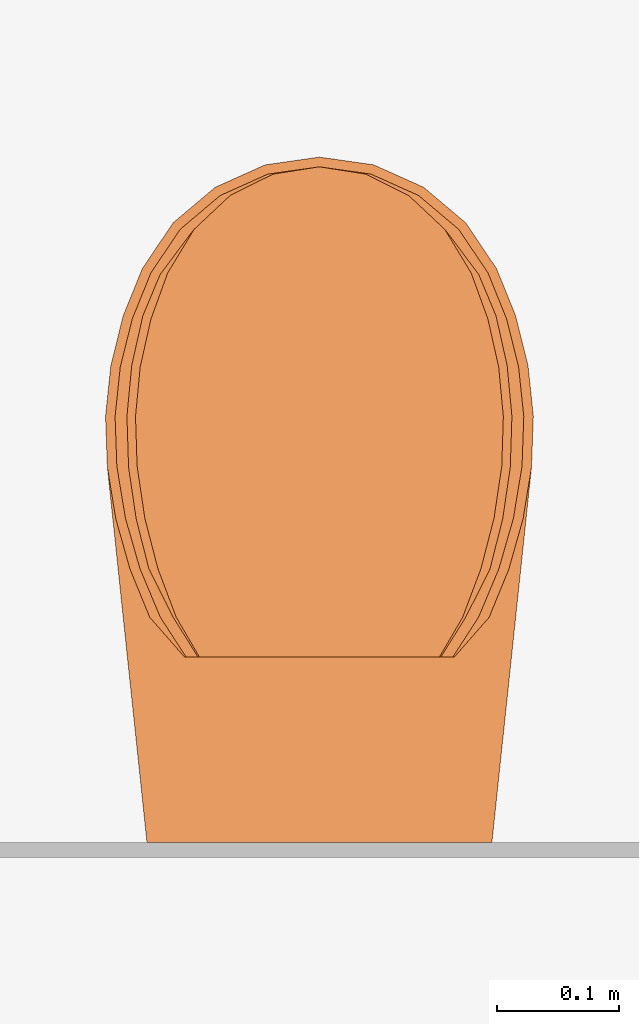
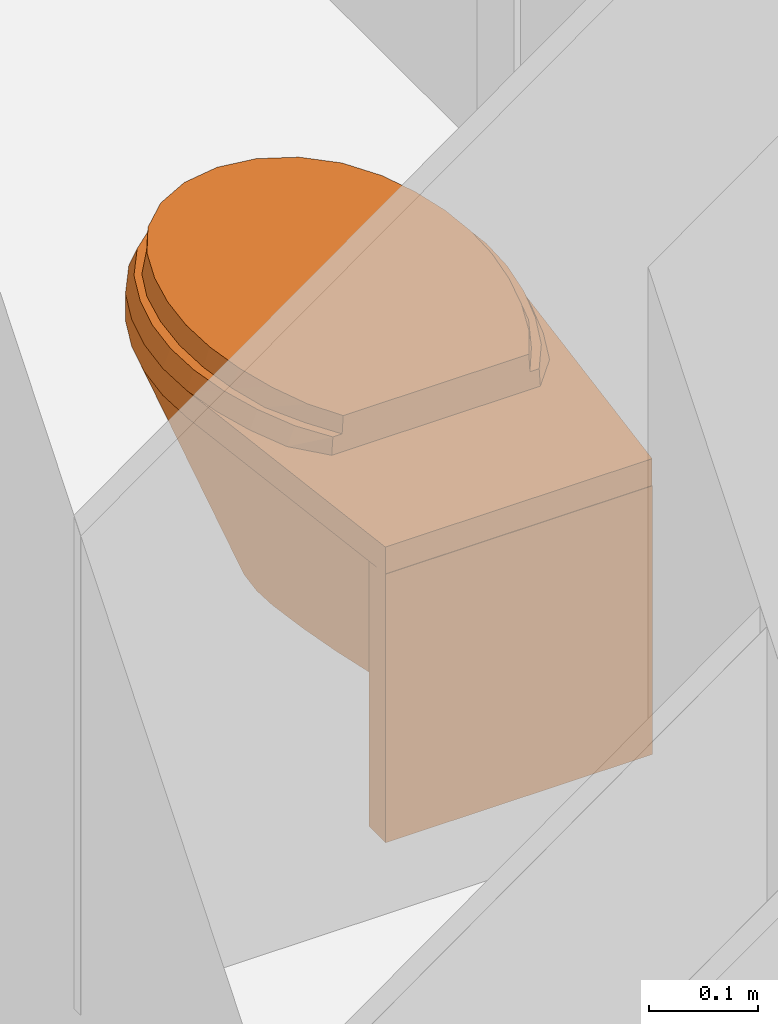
# One storey, part 127 of 135: 1 proxy.
"""IFC2X3 building model written with IfcOpenShell, lengths in millimetres."""

import ifcopenshell
import ifcopenshell.guid

model = None  # the IFC model being written
_history = None  # IfcOwnerHistory: only IFC2X3 demands one
_inside = {}  # id of a spatial element -> (the spatial element, [elements in it])
_under = {}  # id of a project, library or spatial element -> (it, [spatial elements below it])
_declared = {}  # id of a project -> (the project, [libraries it declares])
_typed = {}  # id of a type object -> (the type object, [elements of that type])
_made_of = {}  # id of a material, layer set ... -> (it, [elements and type objects made of it])


def new_model(schema):
    """Start an empty IFC model of exactly this schema.

    Asked for "IFC4X3", IfcOpenShell would pick the latest addendum, in which some entities
    have other attributes; the version numbers below select the first issue.
    IFC2X3 requires an IfcOwnerHistory on every rooted entity: one is made here for all.
    """
    global model, _history
    if schema == "IFC4X3":
        model = ifcopenshell.file(schema_version=(4, 3, 0, 0))
    else:
        model = ifcopenshell.file(schema=schema)
    _inside.clear()
    _under.clear()
    _declared.clear()
    _typed.clear()
    _made_of.clear()
    _history = None
    if model.schema == "IFC2X3":
        org = make("IfcOrganization", Name="unknown")
        user = make(
            "IfcPersonAndOrganization",
            ThePerson=make("IfcPerson", FamilyName="unknown"),
            TheOrganization=org,
        )
        app = make(
            "IfcApplication",
            ApplicationDeveloper=org,
            Version="unknown",
            ApplicationFullName="unknown",
            ApplicationIdentifier="unknown",
        )
        _history = make(
            "IfcOwnerHistory",
            OwningUser=user,
            OwningApplication=app,
            ChangeAction="ADDED",
            CreationDate=0,
        )
    return model


def make(cls, **values):
    """One entity of the class cls with the attributes given. An attribute that is None is left unset."""
    return model.create_entity(
        cls, **{name: value for name, value in values.items() if value is not None}
    )


def entity(cls, *values):
    """Any entity or typed value of the class cls, its attributes in the order of the schema. None: left unset."""
    e = model.create_entity(cls)
    for i, value in enumerate(values):
        if value is not None:
            e[i] = value
    return e


def rooted(cls, **values):
    """An entity with a GlobalId (a new one), such as an element, a storey or a relation."""
    return make(cls, GlobalId=ifcopenshell.guid.new(), OwnerHistory=_history, **values)


def si_unit(unit_type, name, prefix=None):
    """IfcSIUnit, for example si_unit("LENGTHUNIT", "METRE", prefix="MILLI")."""
    return make("IfcSIUnit", UnitType=unit_type, Prefix=prefix, Name=name)


def converted_unit(unit_type, name, factor, base, dimensions=None, offset=None):
    """IfcConversionBasedUnit, such as the inch: factor (a typed value) times the base unit."""
    return make(
        "IfcConversionBasedUnit"
        if offset is None
        else "IfcConversionBasedUnitWithOffset",
        ConversionOffset=offset,
        Dimensions=None
        if dimensions is None
        else entity("IfcDimensionalExponents", *dimensions),
        UnitType=unit_type,
        Name=name,
        ConversionFactor=make(
            "IfcMeasureWithUnit", ValueComponent=factor, UnitComponent=base
        ),
    )


def derived_unit(unit_type, elements):
    """IfcDerivedUnit: a product of units, each with its exponent."""
    return make(
        "IfcDerivedUnit",
        Elements=[
            make("IfcDerivedUnitElement", Unit=unit, Exponent=power)
            for unit, power in elements
        ],
        UnitType=unit_type,
    )


def money_unit(currency):
    """IfcMonetaryUnit."""
    return make("IfcMonetaryUnit", Currency=currency)


def assignment(units):
    """IfcUnitAssignment: the units of a project."""
    return None if units is None else make("IfcUnitAssignment", Units=units)


def point(xyz):
    """IfcCartesianPoint."""
    return None if xyz is None else make("IfcCartesianPoint", Coordinates=xyz)


def direction(xyz):
    """IfcDirection."""
    return None if xyz is None else make("IfcDirection", DirectionRatios=xyz)


def frame(location, z_axis=None, x_axis=None):
    """IfcAxis2Placement3D, a coordinate frame: its origin and axes. An axis left out is left unset."""
    return make(
        "IfcAxis2Placement3D",
        Location=point(location),
        Axis=direction(z_axis),
        RefDirection=direction(x_axis),
    )


def origin_with_axes():
    """The frame at (0, 0, 0) with the z axis (0, 0, 1) and the x axis (1, 0, 0) written out."""
    return frame((0.0, 0.0, 0.0), z_axis=(0.0, 0.0, 1.0), x_axis=(1.0, 0.0, 0.0))


def place(relative_to, where):
    """IfcLocalPlacement: puts the frame where relative to a parent placement (None: the world)."""
    return make(
        "IfcLocalPlacement", PlacementRelTo=relative_to, RelativePlacement=where
    )


def context(
    kind, dimensions, precision=None, world=None, true_north=None, identifier=None
):
    """IfcGeometricRepresentationContext, for example the 3D "Model" context."""
    return make(
        "IfcGeometricRepresentationContext",
        ContextIdentifier=identifier,
        ContextType=kind,
        CoordinateSpaceDimension=dimensions,
        Precision=precision,
        WorldCoordinateSystem=world,
        TrueNorth=true_north,
    )


def subcontext(parent, identifier, kind, view, scale=None):
    """IfcGeometricRepresentationSubContext, for example "Body" below "Model"."""
    return make(
        "IfcGeometricRepresentationSubContext",
        ContextIdentifier=identifier,
        ContextType=kind,
        ParentContext=parent,
        TargetScale=scale,
        TargetView=view,
    )


def project(units=None, contexts=None):
    """IfcProject with its units and contexts."""
    return rooted(
        "IfcProject",
        Name="project",
        RepresentationContexts=contexts,
        UnitsInContext=assignment(units),
    )


def spatial(cls, under=None, at=None, **own):
    """A site, building, storey or space (cls), placed at a placement, below another one or the project."""
    s = rooted(cls, ObjectPlacement=at, **own)
    if under is not None:
        _under.setdefault(under.id(), (under, []))[1].append(s)
    return s


def faces_of(points, faces, orient=None, outer=None):
    """IfcFace entities. A face is a list of loops; a loop is a list of indices into points, from 0.

    orient and outer hold one flag for each loop. By default every Orientation is true, the
    first loop of a face is its IfcFaceOuterBound and the others are IfcFaceBound.
    """
    made = []
    for i, loops in enumerate(faces):
        bounds = []
        for j, loop in enumerate(loops):
            is_outer = j == 0 if outer is None else outer[i][j]
            bounds.append(
                make(
                    "IfcFaceOuterBound" if is_outer else "IfcFaceBound",
                    Bound=make("IfcPolyLoop", Polygon=[points[k] for k in loop]),
                    Orientation=True if orient is None else orient[i][j],
                )
            )
        made.append(make("IfcFace", Bounds=bounds))
    return made


def open_shell(faces, orient=None, outer=None):
    """The faces of one IfcOpenShell. surface_model builds it on its shared points."""
    return ("IfcOpenShell", faces, orient, outer)


def faceted_brep(points, faces, orient=None, outer=None, voids=None):
    """IfcFacetedBrep: a solid bounded by flat faces; with voids (closed shells), ...WithVoids."""
    shared = [point(p) for p in points]
    hull = make("IfcClosedShell", CfsFaces=faces_of(shared, faces, orient, outer))
    if voids is None:
        return make("IfcFacetedBrep", Outer=hull)
    return make(
        "IfcFacetedBrepWithVoids",
        Outer=hull,
        Voids=[
            make(cls, CfsFaces=faces_of(shared, fs, o, b)) for cls, fs, o, b in voids
        ],
    )


def surface_model(cls, points, shells):
    """IfcFaceBasedSurfaceModel or IfcShellBasedSurfaceModel (cls): surfaces that need not close."""
    shared = [point(p) for p in points]
    made = [make(c, CfsFaces=faces_of(shared, fs, o, b)) for c, fs, o, b in shells]
    if cls == "IfcFaceBasedSurfaceModel":
        return make(cls, FbsmFaces=made)
    return make(cls, SbsmBoundary=made)


def shape(context_of_items, identifier, shape_type, items):
    """IfcShapeRepresentation: the items that make up one representation, for example the "Body"."""
    return make(
        "IfcShapeRepresentation",
        ContextOfItems=context_of_items,
        RepresentationIdentifier=identifier,
        RepresentationType=shape_type,
        Items=items,
    )


def source(mapping_origin, context_of_items, identifier, shape_type, items):
    """IfcRepresentationMap: a shape defined once, which mapped items show again and again."""
    return make(
        "IfcRepresentationMap",
        MappingOrigin=mapping_origin,
        MappedRepresentation=shape(context_of_items, identifier, shape_type, items),
    )


def transform(
    local_origin,
    x_axis=None,
    y_axis=None,
    z_axis=None,
    scale=None,
    scale2=None,
    scale3=None,
    uniform=True,
):
    """IfcCartesianTransformationOperator3D, or its non-uniform kind. x_axis, y_axis, z_axis: its Axis1, 2, 3."""
    if uniform:
        return make(
            "IfcCartesianTransformationOperator3D",
            Axis1=direction(x_axis),
            Axis2=direction(y_axis),
            LocalOrigin=point(local_origin),
            Scale=scale,
            Axis3=direction(z_axis),
        )
    return make(
        "IfcCartesianTransformationOperator3DnonUniform",
        Axis1=direction(x_axis),
        Axis2=direction(y_axis),
        LocalOrigin=point(local_origin),
        Scale=scale,
        Axis3=direction(z_axis),
        Scale2=scale2,
        Scale3=scale3,
    )


def mapped(mapping_source, mapping_target):
    """IfcMappedItem: shows the shape of a source again, moved by a transform."""
    return make(
        "IfcMappedItem", MappingSource=mapping_source, MappingTarget=mapping_target
    )


def made_of(thing, what):
    """Note that an element or type object is made of a material, layer set ...; save() writes the relation."""
    if what is not None:
        _made_of.setdefault(what.id(), (what, []))[1].append(thing)
    return thing


def type_object(cls, material=None, **own):
    """A type object (cls), such as IfcWallType, which elements share."""
    return made_of(rooted(cls, **own), material)


def type_shapes(of_type, sources):
    """Give a type object the sources (RepresentationMaps) that its elements show as mapped items."""
    of_type.RepresentationMaps = sources


def element(
    cls,
    number,
    at=None,
    inside=None,
    cuts=None,
    type_object=None,
    material=None,
    context=None,
    identifier="Body",
    shape_type=None,
    held_by="IfcProductDefinitionShape",
    body=None,
    shapes=None,
    **own,
):
    """One element of the class cls, such as IfcWall. Its Tag is "e" and its number.

    at: its placement. inside: the storey or other place that contains it. cuts: it is an
    opening in that element (IfcRelVoidsElement). A single representation is given by context,
    identifier, shape_type and body (its items); several are given by shapes. held_by: the class
    of the entity that holds the representations. save() writes the other relations.
    """
    e = rooted(cls, Tag="e%d" % number, ObjectPlacement=at, **own)
    if body is not None:
        shapes = [shape(context, identifier, shape_type, body)]
    if shapes is not None:
        e.Representation = make(held_by, Representations=shapes)
    if inside is not None:
        _inside.setdefault(inside.id(), (inside, []))[1].append(e)
    if cuts is not None:
        rooted(
            "IfcRelVoidsElement", RelatingBuildingElement=cuts, RelatedOpeningElement=e
        )
    if type_object is not None:
        _typed.setdefault(type_object.id(), (type_object, []))[1].append(e)
    return made_of(e, material)


def aggregate(whole, parts):
    """IfcRelAggregates: a whole, such as a stair, and the parts it consists of."""
    return rooted("IfcRelAggregates", RelatingObject=whole, RelatedObjects=parts)


def save(model, path):
    """Write the relations noted so far, then the file.

    IfcRelAggregates (storeys below a building ...), IfcRelContainedInSpatialStructure (elements
    in a storey), IfcRelDefinesByType, IfcRelAssociatesMaterial and IfcRelDeclares: one each for
    every whole, place, type object, material and project.
    """
    for whole, parts in _under.values():
        aggregate(whole, parts)
    for where, things in _inside.values():
        rooted(
            "IfcRelContainedInSpatialStructure",
            RelatedElements=things,
            RelatingStructure=where,
        )
    for kind, things in _typed.values():
        rooted("IfcRelDefinesByType", RelatedObjects=things, RelatingType=kind)
    for what, things in _made_of.values():
        rooted("IfcRelAssociatesMaterial", RelatedObjects=things, RelatingMaterial=what)
    for by, libraries in _declared.values():
        rooted("IfcRelDeclares", RelatingContext=by, RelatedDefinitions=libraries)
    model.write(path)


model = new_model("IFC2X3")

# Units and contexts
model_context = context("Model", 3, precision=0.01, world=origin_with_axes(), true_north=direction((0.0, 1.0)))
body_context = subcontext(model_context, "Body", "Model", "MODEL_VIEW")
ifc_project = project(units=[si_unit("LENGTHUNIT", "METRE", prefix="MILLI"), si_unit("AREAUNIT", "SQUARE_METRE"), si_unit("VOLUMEUNIT", "CUBIC_METRE"), converted_unit("PLANEANGLEUNIT", "DEGREE", entity("IfcPlaneAngleMeasure", 0.0174532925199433), si_unit("PLANEANGLEUNIT", "RADIAN"), dimensions=[0, 0, 0, 0, 0, 0, 0]), money_unit("EUR"), converted_unit("TIMEUNIT", "Year", entity("IfcTimeMeasure", 31557600.0), si_unit("TIMEUNIT", "SECOND"), dimensions=[0, 0, 1, 0, 0, 0, 0]), si_unit("MASSUNIT", "GRAM", prefix="KILO"), si_unit("THERMODYNAMICTEMPERATUREUNIT", "DEGREE_CELSIUS"), si_unit("LUMINOUSINTENSITYUNIT", "LUMEN"), si_unit("ENERGYUNIT", "JOULE", prefix="MEGA"), derived_unit("THERMALCONDUCTANCEUNIT", [(si_unit("POWERUNIT", "WATT"), 1), (si_unit("LENGTHUNIT", "METRE"), -1), (si_unit("THERMODYNAMICTEMPERATUREUNIT", "KELVIN"), -1)]), derived_unit("SPECIFICHEATCAPACITYUNIT", [(si_unit("ENERGYUNIT", "JOULE"), 1), (si_unit("MASSUNIT", "GRAM", prefix="KILO"), -1), (si_unit("THERMODYNAMICTEMPERATUREUNIT", "KELVIN"), -1)]), derived_unit("MASSDENSITYUNIT", [(si_unit("MASSUNIT", "GRAM", prefix="KILO"), 1), (si_unit("VOLUMEUNIT", "CUBIC_METRE"), -1)])], contexts=[model_context])

# Site, building, storey
site_placement = place(None, origin_with_axes())
site = spatial("IfcSite", under=ifc_project, at=site_placement, Name="Site", CompositionType="ELEMENT")
building_placement = place(site_placement, origin_with_axes())
building = spatial("IfcBuilding", under=site, at=building_placement, Name="Naam gebouw", CompositionType="ELEMENT")
storey_placement = place(building_placement, origin_with_axes())
storey = spatial("IfcBuildingStorey", under=building, at=storey_placement, Name="Begane grond N", CompositionType="ELEMENT", Elevation=0.0)

# Proxy
building_element_proxy_type = type_object("IfcBuildingElementProxyType", Name="Toilet 27", PredefinedType="NOTDEFINED")
shared_shape = source(origin_with_axes(), body_context, "Body", "SurfaceModel", [
    faceted_brep([(141.0283315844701, -29.31865370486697, 69.99999999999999), (-141.0283315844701, -29.31865370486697, 69.99999999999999), (-141.0283315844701, 0.4949050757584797, 69.99999999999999), (141.0283315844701, 0.4949050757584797, 69.99999999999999), (141.0283315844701, -29.31865370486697, 370.0), (-141.0283315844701, -29.31865370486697, 370.0), (-141.0283315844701, 0.4949050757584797, 370.0), (141.0283315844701, 0.4949050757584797, 370.0)], [[[0, 1, 2, 3]], [[1, 0, 4, 5]], [[2, 1, 5, 6]], [[3, 2, 6, 7]], [[0, 3, 7, 4]], [[5, 4, 7, 6]]]),
    faceted_brep([(0.0, -70.89167385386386, 370.0), (29.22322490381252, -74.34010881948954, 370.0), (48.96817068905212, -81.5929972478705, 370.0), (48.96817068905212, -29.31865370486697, 370.0), (-48.96817068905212, -29.31865370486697, 370.0), (-48.96817068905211, -81.5929972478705, 370.0), (-29.22322490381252, -74.34010881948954, 370.0), (13.70129415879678, -104.9506834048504, 120.0), (48.96817068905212, -91.42153264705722, 305.9289314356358), (25.9903462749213, -111.5027098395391, 120.0), (48.96817068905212, -132.9294031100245, 150.8349994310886), (48.96817068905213, -162.8654130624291, 120.0), (48.96817068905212, -29.31865370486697, 120.0), (48.96817068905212, -98.32654517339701, 277.0091093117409), (48.96817068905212, -115.6023982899, 192.7960154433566), (48.96817068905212, -128.1614437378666, 166.4745945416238), (-48.96817068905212, -29.31865370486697, 120.0), (-48.96817068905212, -88.2509938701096, 324.1614695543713), (-48.96817068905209, -162.865413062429, 120.0), (-48.96817068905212, -136.958898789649, 141.3134093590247), (-48.96817068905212, -132.9294031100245, 150.8349994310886), (-48.96817068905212, -121.830119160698, 170.4964192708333), (-48.96817068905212, -115.6023982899, 192.7960154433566), (-48.96817068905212, -107.0876370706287, 223.4625696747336), (-48.96817068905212, -91.42153264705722, 305.9289314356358), (-13.70129415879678, -104.9506834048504, 120.0), (0.0, -102.6888280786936, 120.0), (35.59888072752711, -121.6691333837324, 120.0), (41.53676110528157, -134.4015105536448, 120.0), (-41.53676110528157, -134.4015105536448, 120.0), (-25.9903462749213, -111.5027098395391, 120.0), (-35.59888072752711, -121.6691333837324, 120.0)], [[[0, 1, 2, 3, 4, 5, 6]], [[1, 0, 7]], [[8, 2, 1, 9]], [[10, 11, 12, 3, 2, 8, 13, 14, 15]], [[3, 12, 16, 4]], [[17, 5, 4, 16, 18, 19, 20, 21, 22, 23, 24]], [[6, 5, 17, 25]], [[0, 6, 26]], [[26, 7, 0]], [[7, 9, 1]], [[13, 8, 9, 27]], [[11, 10, 28]], [[29, 18, 16, 12, 11, 28, 27, 9, 7, 26, 25, 30, 31]], [[14, 13, 27]], [[15, 14, 27, 28]], [[10, 15, 28]], [[18, 29, 19]], [[20, 19, 29]], [[29, 31, 21, 20]], [[22, 21, 31]], [[31, 30, 23, 22]], [[24, 23, 30]], [[30, 25, 17, 24]], [[25, 26, 6]]]),
    surface_model("IfcShellBasedSurfaceModel", [(17.69122070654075, -459.020482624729, 120.0), (34.02798181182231, -451.6883347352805, 120.0), (85.18209164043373, -535.3680377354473, 370.0), (0.0, -461.5278029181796, 120.0), (-17.69122070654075, -459.020482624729, 120.0), (-34.02798181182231, -451.6883347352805, 120.0), (-47.75865687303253, -440.0938417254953, 120.0), (-57.83238894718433, -425.1254476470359, 120.0), (-68.23029031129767, -399.4182096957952, 120.0), (-74.94382651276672, -372.4786779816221, 120.0), (-77.83882476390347, -344.8464779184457, 120.0), (-76.85750262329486, -317.0761416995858, 120.0), (-70.97348723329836, -270.8651255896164, 120.0), (-63.11507520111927, -224.9582077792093, 120.0), (-53.29597761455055, -179.4418475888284, 120.0), (-41.53676110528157, -134.4015105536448, 120.0), (-35.59888072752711, -121.6691333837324, 120.0), (-25.9903462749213, -111.5027098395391, 120.0), (-13.70129415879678, -104.9506834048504, 120.0), (0.0, -102.6888280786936, 120.0), (13.70129415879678, -104.9506834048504, 120.0), (25.9903462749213, -111.5027098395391, 120.0), (35.59888072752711, -121.6691333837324, 120.0), (41.53676110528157, -134.4015105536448, 120.0), (53.29597761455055, -179.4418475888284, 120.0), (63.11507520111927, -224.9582077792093, 120.0), (70.97348723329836, -270.8651255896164, 120.0), (76.85750262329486, -317.0761416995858, 120.0), (77.83882476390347, -344.845484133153, 120.0), (74.94382651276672, -372.4786779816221, 120.0), (68.23029031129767, -399.4182096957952, 120.0), (57.83238894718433, -425.1254476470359, 120.0), (47.75865687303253, -440.0938417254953, 120.0), (119.554809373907, -506.3435444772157, 370.0), (44.28681357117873, -553.722258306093, 370.0), (0.0, -560.0, 370.0), (-44.28681357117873, -553.722258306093, 370.0), (-85.18209164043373, -535.3680377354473, 370.0), (-119.554809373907, -506.3435444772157, 370.0), (-144.7734172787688, -468.8718762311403, 370.0), (-160.3893669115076, -430.2603362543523, 370.0), (-170.4738719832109, -389.7973742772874, 370.0), (-174.8222455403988, -348.2949128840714, 370.0), (-173.3473242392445, -306.5847503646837, 370.0), (-164.8111927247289, -257.295981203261, 370.0), (-149.8396642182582, -209.614162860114, 370.0), (-128.7050017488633, -164.3989196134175, 370.0), (-101.7881776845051, -122.4661491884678, 370.0), (-81.51241692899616, -100.8344247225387, 370.0), (-56.88632388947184, -84.50156343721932, 370.0), (-29.22322490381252, -74.34010881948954, 370.0), (0.0, -70.89167385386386, 370.0), (29.22322490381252, -74.34010881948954, 370.0), (56.88632388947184, -84.50156343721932, 370.0), (81.51241692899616, -100.8344247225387, 370.0), (101.7881776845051, -122.4661491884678, 370.0), (128.7050017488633, -164.3989196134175, 370.0), (149.8396642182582, -209.614162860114, 370.0), (164.8111927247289, -257.2969749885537, 370.0), (173.3473242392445, -306.5847503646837, 370.0), (174.8222455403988, -348.2949128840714, 370.0), (170.4738719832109, -389.7973742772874, 370.0), (160.3903462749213, -430.2603362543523, 370.0), (144.7734172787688, -468.8718762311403, 370.0)], [open_shell([[[0, 1, 2]], [[0, 3, 4, 5, 6, 7, 8, 9, 10, 11, 12, 13, 14, 15, 16, 17, 18, 19, 20, 21, 22, 23, 24, 25, 26, 27, 28, 29, 30, 31, 32, 1]], [[1, 33, 2]], [[0, 2, 34]], [[3, 0, 34]], [[4, 3, 35]], [[5, 4, 36]], [[6, 5, 37]], [[7, 6, 38]], [[8, 7, 39]], [[9, 8, 40]], [[10, 9, 41]], [[11, 10, 42]], [[12, 11, 43]], [[13, 12, 44]], [[14, 13, 45]], [[15, 14, 46]], [[16, 15, 47]], [[17, 16, 48]], [[18, 17, 49]], [[19, 18, 50]], [[20, 19, 51]], [[21, 20, 52]], [[22, 21, 53]], [[23, 22, 54]], [[24, 23, 55]], [[25, 24, 56]], [[26, 25, 57]], [[27, 26, 58]], [[28, 27, 59]], [[29, 28, 60]], [[30, 29, 61]], [[31, 30, 62]], [[32, 31, 63]], [[1, 32, 33]], [[3, 34, 35]], [[4, 35, 36]], [[5, 36, 37]], [[6, 37, 38]], [[7, 38, 39]], [[8, 39, 40]], [[9, 40, 41]], [[10, 41, 42]], [[11, 42, 43]], [[12, 43, 44]], [[13, 44, 45]], [[14, 45, 46]], [[15, 46, 47]], [[16, 47, 48]], [[17, 48, 49]], [[18, 49, 50]], [[19, 50, 51]], [[20, 51, 52]], [[21, 52, 53]], [[22, 53, 54]], [[23, 54, 55]], [[24, 55, 56]], [[25, 56, 57]], [[26, 57, 58]], [[27, 58, 59]], [[28, 59, 60]], [[29, 60, 61]], [[30, 61, 62]], [[31, 62, 63]], [[32, 63, 33]]])]),
    faceted_brep([(-173.3473242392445, -306.5847503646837, 370.0), (-174.8222455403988, -348.2949128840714, 370.0), (-174.8222455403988, -348.2949128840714, 400.0), (-173.3473242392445, -306.5847503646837, 400.0), (-140.9734872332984, 0.0, 370.0), (140.975445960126, 0.0, 370.0), (173.3473242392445, -306.5847503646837, 370.0), (174.8222455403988, -348.2949128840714, 370.0), (170.4738719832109, -389.7973742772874, 370.0), (160.3903462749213, -430.2603362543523, 370.0), (144.7734172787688, -468.8718762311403, 370.0), (119.554809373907, -506.3435444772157, 370.0), (85.18209164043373, -535.3680377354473, 370.0), (44.28681357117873, -553.722258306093, 370.0), (0.0, -560.0, 370.0), (-44.28681357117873, -553.722258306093, 370.0), (-85.18209164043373, -535.3680377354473, 370.0), (-119.554809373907, -506.3435444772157, 370.0), (-144.7734172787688, -468.8718762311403, 370.0), (-160.3893669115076, -430.2603362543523, 370.0), (-170.4738719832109, -389.7973742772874, 370.0), (144.5021336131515, -309.7211367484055, 370.0), (129.3885974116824, -258.2838037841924, 370.0), (97.13522210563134, -215.7418429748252, 370.0), (52.01301154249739, -187.731010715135, 370.0), (0.0, -177.9630950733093, 370.0), (-52.01301154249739, -187.731010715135, 370.0), (-97.13522210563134, -215.7418429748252, 370.0), (-129.3885974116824, -258.2838037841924, 370.0), (-144.5021336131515, -309.7211367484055, 370.0), (-145.8291710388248, -347.2633637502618, 370.0), (-141.914655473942, -384.6197529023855, 370.0), (-132.838894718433, -421.0399963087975, 370.0), (-118.7820916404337, -455.7936617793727, 370.0), (-98.09206016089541, -486.5383973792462, 370.0), (-69.89031129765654, -510.3524743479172, 370.0), (-36.33634137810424, -525.411302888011, 370.0), (0.0, -530.5620920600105, 370.0), (36.33634137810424, -525.411302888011, 370.0), (69.89031129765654, -510.3524743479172, 370.0), (98.09206016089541, -486.5383973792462, 370.0), (118.7820916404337, -455.7936617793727, 370.0), (132.838894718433, -421.0399963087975, 370.0), (141.914655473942, -384.6197529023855, 370.0), (145.8291710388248, -347.2633637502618, 370.0), (-170.4738719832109, -389.7973742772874, 400.0), (-160.3893669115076, -430.2603362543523, 400.0), (-144.7734172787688, -468.8718762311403, 400.0), (-119.554809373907, -506.3435444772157, 400.0), (-85.18209164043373, -535.3680377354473, 400.0), (-44.28681357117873, -553.722258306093, 400.0), (0.0, -560.0, 400.0), (44.28681357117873, -553.722258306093, 400.0), (85.18209164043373, -535.3680377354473, 400.0), (119.554809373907, -506.3435444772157, 400.0), (144.7734172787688, -468.8718762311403, 400.0), (160.3903462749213, -430.2603362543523, 400.0), (170.4738719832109, -389.7973742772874, 400.0), (174.8222455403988, -348.2949128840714, 400.0), (173.3473242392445, -306.5847503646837, 400.0), (140.975445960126, 0.0, 400.0), (-140.9734872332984, 0.0, 400.0), (144.5021336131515, -309.7211367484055, 400.0), (145.8291710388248, -347.2633637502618, 400.0), (141.914655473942, -384.6197529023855, 400.0), (132.838894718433, -421.0399963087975, 400.0), (118.7820916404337, -455.7936617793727, 400.0), (98.09206016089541, -486.5383973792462, 400.0), (69.89031129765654, -510.3524743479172, 400.0), (36.33634137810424, -525.411302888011, 400.0), (0.0, -530.5620920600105, 400.0), (-36.33634137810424, -525.411302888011, 400.0), (-69.89031129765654, -510.3524743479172, 400.0), (-98.09206016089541, -486.5383973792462, 400.0), (-118.7820916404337, -455.7936617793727, 400.0), (-132.838894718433, -421.0399963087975, 400.0), (-141.914655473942, -384.6197529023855, 400.0), (-145.8291710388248, -347.2633637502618, 400.0), (-144.5021336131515, -309.7211367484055, 400.0), (-129.3885974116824, -258.2838037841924, 400.0), (-97.13522210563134, -215.7418429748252, 400.0), (-52.01301154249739, -187.731010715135, 400.0), (0.0, -177.9630950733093, 400.0), (52.01301154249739, -187.731010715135, 400.0), (97.13522210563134, -215.7418429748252, 400.0), (129.3885974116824, -258.2838037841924, 400.0)], [[[0, 1, 2, 3]], [[0, 4, 5, 6, 7, 8, 9, 10, 11, 12, 13, 14, 15, 16, 17, 18, 19, 20, 1], [21, 22, 23, 24, 25, 26, 27, 28, 29, 30, 31, 32, 33, 34, 35, 36, 37, 38, 39, 40, 41, 42, 43, 44]], [[1, 20, 45, 2]], [[3, 2, 45, 46, 47, 48, 49, 50, 51, 52, 53, 54, 55, 56, 57, 58, 59, 60, 61], [62, 63, 64, 65, 66, 67, 68, 69, 70, 71, 72, 73, 74, 75, 76, 77, 78, 79, 80, 81, 82, 83, 84, 85]], [[4, 0, 3, 61]], [[5, 4, 61, 60]], [[6, 5, 60, 59]], [[7, 6, 59, 58]], [[8, 7, 58, 57]], [[9, 8, 57, 56]], [[10, 9, 56, 55]], [[11, 10, 55, 54]], [[12, 11, 54, 53]], [[13, 12, 53, 52]], [[14, 13, 52, 51]], [[15, 14, 51, 50]], [[16, 15, 50, 49]], [[17, 16, 49, 48]], [[18, 17, 48, 47]], [[19, 18, 47, 46]], [[20, 19, 46, 45]], [[22, 21, 62, 85]], [[23, 22, 85, 84]], [[24, 23, 84, 83]], [[25, 24, 83, 82]], [[26, 25, 82, 81]], [[27, 26, 81, 80]], [[28, 27, 80, 79]], [[29, 28, 79, 78]], [[30, 29, 78, 77]], [[31, 30, 77, 76]], [[32, 31, 76, 75]], [[33, 32, 75, 74]], [[34, 33, 74, 73]], [[35, 34, 73, 72]], [[36, 35, 72, 71]], [[37, 36, 71, 70]], [[38, 37, 70, 69]], [[39, 38, 69, 68]], [[40, 39, 68, 67]], [[41, 40, 67, 66]], [[42, 41, 66, 65]], [[43, 42, 65, 64]], [[44, 43, 64, 63]], [[21, 44, 63, 62]]]),
    surface_model("IfcShellBasedSurfaceModel", [(16.80665967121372, -465.7329258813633, 220.0), (32.3265827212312, -460.0138505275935, 220.0), (80.92298705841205, -525.2840188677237, 370.0), (0.0, -467.6886357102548, 220.0), (-16.80665967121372, -465.7329258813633, 220.0), (-32.3265827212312, -460.0138505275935, 220.0), (-45.3707240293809, -450.970145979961, 220.0), (-54.94076949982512, -439.2947985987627, 220.0), (-64.81877579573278, -419.2431529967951, 220.0), (-71.1966351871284, -398.23031825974, 220.0), (-73.9468835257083, -376.6772022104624, 220.0), (-73.01462749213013, -355.0163399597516, 220.0), (-67.42481287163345, -318.9717473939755, 220.0), (-59.95932144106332, -283.164351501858, 220.0), (-50.63117873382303, -247.6615905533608, 220.0), (-39.4599230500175, -212.5301276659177, 220.0), (-33.81893669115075, -202.598873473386, 220.0), (-24.69082896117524, -194.6690631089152, 220.0), (-13.01622945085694, -189.558482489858, 220.0), (0.0, -187.7942353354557, 220.0), (13.01622945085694, -189.558482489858, 220.0), (24.69082896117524, -194.6690631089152, 220.0), (33.81893669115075, -202.598873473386, 220.0), (39.4599230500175, -212.5301276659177, 220.0), (50.63117873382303, -247.6615905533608, 220.0), (59.95932144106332, -283.164351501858, 220.0), (67.42481287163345, -318.9717473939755, 220.0), (73.01462749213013, -355.0163399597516, 220.0), (73.9468835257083, -376.6764270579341, 220.0), (71.1966351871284, -398.23031825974, 220.0), (64.81877579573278, -419.2431529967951, 220.0), (54.94076949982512, -439.2947985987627, 220.0), (45.3707240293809, -450.970145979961, 220.0), (113.5770689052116, -502.644914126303, 370.0), (42.0724728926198, -539.6003109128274, 370.0), (0.0, -544.4969494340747, 370.0), (-42.0724728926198, -539.6003109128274, 370.0), (-80.92298705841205, -525.2840188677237, 370.0), (-113.5770689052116, -502.644914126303, 370.0), (-137.5347464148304, -473.4170128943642, 370.0), (-152.3698985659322, -443.3000117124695, 370.0), (-161.9501783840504, -411.7389013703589, 370.0), (-166.0811332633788, -379.3669814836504, 370.0), (-164.6799580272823, -346.833054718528, 370.0), (-156.5706330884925, -308.3878147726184, 370.0), (-142.3476810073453, -271.1959964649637, 370.0), (-122.2697516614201, -235.9281067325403, 370.0), (-96.69876880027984, -203.2205458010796, 370.0), (-77.43679608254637, -186.3478007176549, 370.0), (-54.04200769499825, -173.6081689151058, 370.0), (-27.7620636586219, -165.6822343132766, 370.0), (0.0, -162.9924550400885, 370.0), (27.7620636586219, -165.6822343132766, 370.0), (54.04200769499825, -173.6081689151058, 370.0), (77.43679608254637, -186.3478007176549, 370.0), (96.69876880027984, -203.2205458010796, 370.0), (122.2697516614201, -235.9281067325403, 370.0), (142.3476810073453, -271.1959964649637, 370.0), (156.5706330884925, -308.3885899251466, 370.0), (164.6799580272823, -346.833054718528, 370.0), (166.0811332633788, -379.3669814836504, 370.0), (161.9501783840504, -411.7389013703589, 370.0), (152.3708289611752, -443.3000117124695, 370.0), (137.5347464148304, -473.4170128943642, 370.0)], [open_shell([[[0, 1, 2]], [[0, 3, 4, 5, 6, 7, 8, 9, 10, 11, 12, 13, 14, 15, 16, 17, 18, 19, 20, 21, 22, 23, 24, 25, 26, 27, 28, 29, 30, 31, 32, 1]], [[1, 33, 2]], [[0, 2, 34]], [[3, 0, 34]], [[4, 3, 35]], [[5, 4, 36]], [[6, 5, 37]], [[7, 6, 38]], [[8, 7, 39]], [[9, 8, 40]], [[10, 9, 41]], [[11, 10, 42]], [[12, 11, 43]], [[13, 12, 44]], [[14, 13, 45]], [[15, 14, 46]], [[16, 15, 47]], [[17, 16, 48]], [[18, 17, 49]], [[19, 18, 50]], [[20, 19, 51]], [[21, 20, 52]], [[22, 21, 53]], [[23, 22, 54]], [[24, 23, 55]], [[25, 24, 56]], [[26, 25, 57]], [[27, 26, 58]], [[28, 27, 59]], [[29, 28, 60]], [[30, 29, 61]], [[31, 30, 62]], [[32, 31, 63]], [[1, 32, 33]], [[3, 34, 35]], [[4, 35, 36]], [[5, 36, 37]], [[6, 37, 38]], [[7, 38, 39]], [[8, 39, 40]], [[9, 40, 41]], [[10, 41, 42]], [[11, 42, 43]], [[12, 43, 44]], [[13, 44, 45]], [[14, 45, 46]], [[15, 46, 47]], [[16, 47, 48]], [[17, 48, 49]], [[18, 49, 50]], [[19, 50, 51]], [[20, 51, 52]], [[21, 52, 53]], [[22, 53, 54]], [[23, 54, 55]], [[24, 55, 56]], [[25, 56, 57]], [[26, 57, 58]], [[27, 58, 59]], [[28, 59, 60]], [[29, 60, 61]], [[30, 61, 62]], [[31, 62, 63]], [[32, 63, 33]]])]),
    faceted_brep([(0.0, -560.0, 400.0), (-44.28681357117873, -553.722258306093, 400.0), (-85.18209164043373, -535.3680377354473, 400.0), (-119.554809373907, -506.3435444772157, 400.0), (-144.7734172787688, -468.8718762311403, 400.0), (-160.3893669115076, -430.2603362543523, 400.0), (-170.4738719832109, -389.7973742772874, 400.0), (-174.8222455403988, -348.2949128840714, 400.0), (-173.3473242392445, -306.5847503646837, 400.0), (-166.4663168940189, -264.4263906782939, 400.0), (-154.8716334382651, -223.3443004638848, 400.0), (-138.7150752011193, -183.8810864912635, 400.0), (-110.1926579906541, -151.3163525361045, 400.0), (110.1926579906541, -151.3163525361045, 400.0), (138.7150752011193, -183.8810864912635, 400.0), (154.8716334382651, -223.3443004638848, 400.0), (166.4663168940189, -264.4263906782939, 400.0), (173.3473242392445, -306.5847503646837, 400.0), (174.8222455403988, -348.2949128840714, 400.0), (170.4738719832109, -389.7973742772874, 400.0), (160.3903462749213, -430.2603362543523, 400.0), (144.7734172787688, -468.8718762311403, 400.0), (119.554809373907, -506.3435444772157, 400.0), (85.18209164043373, -535.3680377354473, 400.0), (44.28681357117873, -553.722258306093, 400.0), (87.07689659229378, -411.9963613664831, 400.0), (94.51085540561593, -382.2763031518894, 400.0), (97.71606496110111, -351.7983255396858, 400.0), (96.61425296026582, -320.7429308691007, 400.0), (90.99294096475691, -286.7942733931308, 400.0), (81.32886310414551, -253.3381075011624, 400.0), (68.75448552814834, -223.4663237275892, 400.0), (-68.75412876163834, -223.4663237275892, 400.0), (-81.3289539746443, -253.3384220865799, 400.0), (-90.99294096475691, -286.7942733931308, 400.0), (-96.61425296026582, -320.7429308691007, 400.0), (-97.71606496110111, -351.7983255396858, 400.0), (-94.51085540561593, -382.2763031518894, 400.0), (-87.07689659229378, -411.9963613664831, 400.0), (-76.4888004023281, -438.0775703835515, 400.0), (-62.06856874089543, -459.4262123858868, 400.0), (-44.26109835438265, -474.4067566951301, 400.0), (-23.02579943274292, -483.9023013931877, 400.0), (0.0, -487.1544663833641, 400.0), (23.02579943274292, -483.9023013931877, 400.0), (44.26109835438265, -474.4067566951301, 400.0), (62.06856874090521, -459.4262123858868, 400.0), (76.4888004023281, -438.0775703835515, 400.0), (0.0, -552.0944379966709, 420.0000000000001), (-42.15180132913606, -546.1188070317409, 420.0000000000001), (-81.07562084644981, -528.649055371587, 420.0000000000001), (-113.7912556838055, -501.0248055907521, 420.0000000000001), (-137.7925148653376, -465.3598390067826, 420.0000000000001), (-152.9902763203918, -427.7848170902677, 420.0000000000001), (-162.8034977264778, -388.4070686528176, 420.0000000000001), (-167.0353270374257, -348.0176467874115, 420.0000000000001), (-165.6005596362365, -307.4274802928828, 420.0000000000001), (-158.5902763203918, -264.9332211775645, 420.0000000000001), (-146.6880727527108, -223.5758524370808, 420.0000000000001), (-130.06142007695, -183.9317695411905, 420.0000000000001), (-108.940468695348, -151.3163525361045, 420.0000000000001), (108.940468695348, -151.3163525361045, 420.0000000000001), (130.06142007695, -183.9307757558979, 420.0000000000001), (146.6880727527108, -223.5758524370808, 420.0000000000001), (158.5902763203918, -264.9332211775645, 420.0000000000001), (165.6005596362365, -307.4274802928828, 420.0000000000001), (167.0353270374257, -348.0176467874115, 420.0000000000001), (162.8034977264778, -388.4070686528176, 420.0000000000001), (152.9902763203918, -427.7848170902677, 420.0000000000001), (137.7925148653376, -465.3598390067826, 420.0000000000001), (113.7912556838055, -501.0248055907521, 420.0000000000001), (81.07562084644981, -528.649055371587, 420.0000000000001), (42.15180132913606, -546.1188070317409, 420.0000000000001), (87.07689659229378, -411.9963613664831, 420.0), (94.51085540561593, -382.2763031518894, 420.0), (97.71606496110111, -351.7983255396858, 420.0), (96.61425296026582, -320.7429308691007, 420.0), (90.99294096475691, -286.7942733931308, 420.0), (81.32886310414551, -253.3381075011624, 420.0), (68.75448552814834, -223.4663237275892, 420.0), (-68.75412876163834, -223.4663237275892, 420.0000000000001), (-81.3289539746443, -253.3384220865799, 420.0000000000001), (-90.99294096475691, -286.7942733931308, 420.0000000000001), (-96.61425296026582, -320.7429308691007, 420.0000000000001), (-97.71606496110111, -351.7983255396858, 420.0000000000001), (-94.51085540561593, -382.2763031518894, 420.0000000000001), (-87.07689659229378, -411.9963613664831, 420.0000000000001), (-76.4888004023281, -438.0775703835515, 420.0000000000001), (-62.06856874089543, -459.4262123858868, 420.0000000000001), (-44.26109835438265, -474.4067566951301, 420.0000000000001), (-23.02579943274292, -483.9023013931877, 420.0000000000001), (0.0, -487.1544663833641, 420.0), (23.02579943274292, -483.9023013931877, 420.0), (44.26109835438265, -474.4067566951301, 420.0), (62.06856874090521, -459.4262123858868, 420.0), (76.4888004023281, -438.0775703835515, 420.0)], [[[0, 1, 2, 3, 4, 5, 6, 7, 8, 9, 10, 11, 12, 13, 14, 15, 16, 17, 18, 19, 20, 21, 22, 23, 24], [25, 26, 27, 28, 29, 30, 31, 32, 33, 34, 35, 36, 37, 38, 39, 40, 41, 42, 43, 44, 45, 46, 47]], [[1, 0, 48]], [[2, 1, 49]], [[3, 2, 50]], [[4, 3, 51]], [[5, 4, 52]], [[6, 5, 53]], [[6, 54, 55, 7]], [[8, 7, 55]], [[9, 8, 56]], [[10, 9, 57]], [[11, 10, 58]], [[12, 11, 59]], [[12, 60, 61, 13]], [[14, 13, 61]], [[15, 14, 62]], [[16, 15, 63]], [[17, 16, 64]], [[18, 17, 65]], [[18, 66, 67, 19]], [[20, 19, 67]], [[20, 68, 69, 21]], [[22, 21, 69]], [[23, 22, 70]], [[24, 23, 71]], [[0, 24, 72]], [[73, 74, 26, 25]], [[74, 75, 27, 26]], [[75, 76, 28, 27]], [[76, 77, 29, 28]], [[77, 78, 30, 29]], [[78, 79, 31, 30]], [[79, 80, 32, 31]], [[80, 81, 33, 32]], [[81, 82, 34, 33]], [[82, 83, 35, 34]], [[83, 84, 36, 35]], [[84, 85, 37, 36]], [[85, 86, 38, 37]], [[86, 87, 39, 38]], [[87, 88, 40, 39]], [[88, 89, 41, 40]], [[89, 90, 42, 41]], [[90, 91, 43, 42]], [[91, 92, 44, 43]], [[92, 93, 45, 44]], [[93, 94, 46, 45]], [[94, 95, 47, 46]], [[95, 73, 25, 47]], [[0, 72, 48]], [[1, 48, 49]], [[2, 49, 50]], [[3, 50, 51]], [[4, 51, 52]], [[5, 52, 53]], [[6, 53, 54]], [[54, 53, 52, 51, 50, 49, 48, 72, 71, 70, 69, 68, 67, 66, 65, 64, 63, 62, 61, 60, 59, 58, 57, 56, 55], [77, 76, 75, 74, 73, 95, 94, 93, 92, 91, 90, 89, 88, 87, 86, 85, 84, 83, 82, 81, 80, 79, 78]], [[8, 55, 56]], [[9, 56, 57]], [[10, 57, 58]], [[11, 58, 59]], [[12, 59, 60]], [[14, 61, 62]], [[15, 62, 63]], [[16, 63, 64]], [[17, 64, 65]], [[18, 65, 66]], [[20, 67, 68]], [[22, 69, 70]], [[23, 70, 71]], [[24, 71, 72]]]),
    faceted_brep([(-107.5993284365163, -494.4181209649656, 420.0000000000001), (-76.66388247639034, -519.4674730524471, 420.0000000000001), (-72.96805876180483, -528.649055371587, 440.0000000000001), (-130.2960755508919, -463.9029497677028, 420.0000000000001), (-144.3504302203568, -430.2603362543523, 420.0000000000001), (-153.4264847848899, -389.7973742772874, 420.0000000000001), (-157.3400209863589, -348.2949128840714, 420.0000000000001), (-156.01259181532, -306.5847503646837, 420.0000000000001), (-149.819685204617, -264.4263906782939, 420.0000000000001), (-139.3844700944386, -223.3443004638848, 420.0000000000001), (-119.5550052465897, -183.8810864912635, 420.0000000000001), (-99.17339219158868, -151.3163525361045, 420.0000000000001), (99.17339219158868, -151.3163525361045, 420.0000000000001), (119.5550052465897, -183.8810864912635, 420.0000000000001), (139.3844700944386, -223.3443004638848, 420.0000000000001), (149.819685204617, -264.4263906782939, 420.0000000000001), (156.01259181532, -306.5847503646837, 420.0000000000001), (157.3400209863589, -348.2949128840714, 420.0000000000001), (153.4264847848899, -389.7973742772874, 420.0000000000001), (144.3513116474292, -430.2603362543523, 420.0000000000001), (130.2960755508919, -463.9029497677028, 420.0000000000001), (107.5993284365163, -494.4181209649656, 420.0000000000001), (76.66388247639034, -519.4674730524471, 420.0000000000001), (39.85813221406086, -538.8154789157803, 420.0000000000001), (0.0, -545.0932206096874, 420.0000000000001), (-39.85813221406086, -538.8154789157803, 420.0000000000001), (-37.93662119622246, -546.1188070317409, 440.0000000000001), (-102.412130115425, -501.0248055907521, 440.0000000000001), (-124.0132633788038, -465.3598390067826, 440.0000000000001), (-137.6912486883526, -427.7848170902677, 440.0000000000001), (-146.52314795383, -388.4070686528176, 440.0000000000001), (-150.3317943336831, -348.0176467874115, 440.0000000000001), (-149.0405036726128, -307.4274802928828, 440.0000000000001), (-142.7312486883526, -264.9332211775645, 440.0000000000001), (-132.0192654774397, -223.5758524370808, 440.0000000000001), (-117.055278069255, -183.9317695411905, 440.0000000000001), (-98.04642182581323, -151.3163525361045, 440.0000000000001), (98.04642182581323, -151.3163525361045, 440.0000000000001), (117.055278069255, -183.9307757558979, 440.0000000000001), (132.0192654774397, -223.5758524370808, 440.0000000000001), (142.7312486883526, -264.9332211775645, 440.0000000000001), (149.0405036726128, -307.4274802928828, 440.0000000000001), (150.3317943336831, -348.0176467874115, 440.0000000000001), (146.52314795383, -388.4070686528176, 440.0000000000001), (137.6912486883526, -427.7848170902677, 440.0000000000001), (124.0132633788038, -465.3598390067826, 440.0000000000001), (102.412130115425, -501.0248055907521, 440.0000000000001), (72.96805876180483, -528.649055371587, 440.0000000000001), (37.93662119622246, -546.1188070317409, 440.0000000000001), (0.0, -552.0944379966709, 440.0000000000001)], [[[0, 1, 2]], [[0, 3, 4, 5, 6, 7, 8, 9, 10, 11, 12, 13, 14, 15, 16, 17, 18, 19, 20, 21, 22, 23, 24, 25, 1]], [[1, 26, 2]], [[0, 2, 27]], [[3, 0, 27]], [[4, 3, 28]], [[5, 4, 29]], [[6, 5, 30, 31]], [[7, 6, 31]], [[8, 7, 32]], [[9, 8, 33]], [[10, 9, 34]], [[11, 10, 35]], [[12, 11, 36, 37]], [[13, 12, 37]], [[14, 13, 38]], [[15, 14, 39]], [[16, 15, 40]], [[17, 16, 41]], [[18, 17, 42, 43]], [[19, 18, 43]], [[20, 19, 44]], [[21, 20, 45]], [[22, 21, 46]], [[23, 22, 47]], [[24, 23, 48]], [[25, 24, 49]], [[1, 25, 26]], [[27, 2, 26, 49, 48, 47, 46, 45, 44, 43, 42, 41, 40, 39, 38, 37, 36, 35, 34, 33, 32, 31, 30, 29, 28]], [[3, 27, 28]], [[4, 28, 29]], [[5, 29, 30]], [[7, 31, 32]], [[8, 32, 33]], [[9, 33, 34]], [[10, 34, 35]], [[11, 35, 36]], [[13, 37, 38]], [[14, 38, 39]], [[15, 39, 40]], [[16, 40, 41]], [[17, 41, 42]], [[19, 43, 44]], [[20, 44, 45]], [[21, 45, 46]], [[22, 46, 47]], [[23, 47, 48]], [[24, 48, 49]], [[25, 49, 26]]]),
])
type_shapes(building_element_proxy_type, [shared_shape])
proxy_placement = place(storey_placement, frame((-300.0388143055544, 10823.41242510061, 0.0), z_axis=(0.0, 0.0, 1.0), x_axis=(-1.0, 0.0, 0.0)))
element("IfcBuildingElementProxy", 1, at=proxy_placement, inside=storey, type_object=building_element_proxy_type, Name="_Sanitair-x", context=body_context, shape_type="MappedRepresentation", body=[
    mapped(shared_shape, transform((0.0, 0.0, 0.0))),
])

save(model, "model.ifc")
